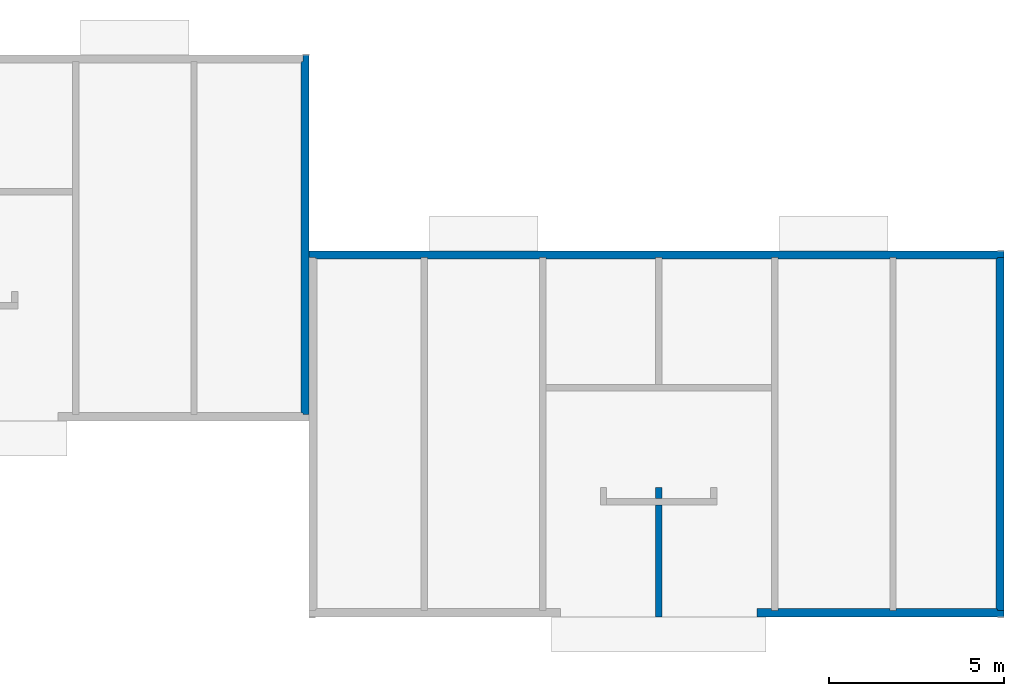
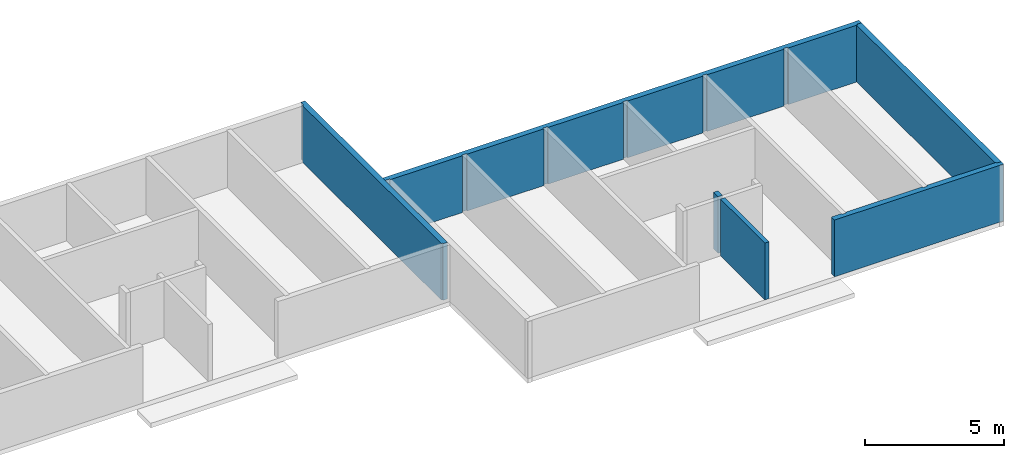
# One storey, part 10 of 10: 6 walls.
"""IFC2X3 building model written with IfcOpenShell, lengths in metres."""

from ifc_helpers import new_model, si_unit, frame, origin, place, context, project, spatial, faceted_brep, element, save


model = new_model("IFC2X3")

# Units and contexts
model_context = context("Model", 3, precision=1e-06, world=origin())
ifc_project = project(units=[si_unit("LENGTHUNIT", "METRE"), si_unit("PLANEANGLEUNIT", "RADIAN")], contexts=[model_context])

# Site, building, storey
site = spatial("IfcSite", under=ifc_project, CompositionType="ELEMENT")
building = spatial("IfcBuilding", under=site, CompositionType="ELEMENT")
storey = spatial("IfcBuildingStorey", under=building, Name="r+1", CompositionType="ELEMENT", Elevation=2.7)

# Walls
placement = place(None, origin())
wall_1_placement = place(placement, frame((59.54999999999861, -5.399837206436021, 2.7), z_axis=(0.0, 0.0, 1.0), x_axis=(0.0, 1.0, 0.0)))
element("IfcWall", 1, at=wall_1_placement, inside=storey, context=model_context, shape_type="Brep", body=[
    faceted_brep([(0.04, 0.18, 2.5), (0.04, 0.22, 2.5), (0.04, 0.22, 0.0), (0.04, 0.18, 0.0), (0.04, 0.22, 2.5), (0.05, 0.22, 2.5), (0.05, 0.22, 0.0), (0.04, 0.22, 0.0), (0.05, 0.22, 2.5), (0.05, 0.23, 2.5), (0.05, 0.23, 0.0), (0.05, 0.22, 0.0), (0.05, 0.23, 2.5), (10.03991497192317, 0.23, 2.5), (10.03991497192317, 0.23, 0.0), (0.05, 0.23, 0.0), (10.03991497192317, 0.23, 2.5), (10.03991497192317, 0.22, 2.5), (10.03991497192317, 0.22, 0.0), (10.03991497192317, 0.23, 0.0), (10.03991497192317, 0.22, 2.5), (10.04991497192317, 0.22, 2.5), (10.04991497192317, 0.22, 0.0), (10.03991497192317, 0.22, 0.0), (10.04991497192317, 0.22, 2.5), (10.04991497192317, 0.18, 2.5), (10.04991497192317, 0.18, 0.0), (10.04991497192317, 0.22, 0.0), (10.04991497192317, 0.18, 2.5), (10.08991497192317, 0.18, 2.5), (10.08991497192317, 0.18, 0.0), (10.04991497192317, 0.18, 0.0), (10.08991497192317, 0.18, 2.5), (10.08991497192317, 0.0, 2.5), (10.08991497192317, 0.0, 0.0), (10.08991497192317, 0.18, 0.0), (10.08991497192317, 0.0, 2.5), (0.0, 0.0, 2.5), (0.0, 0.0, 0.0), (10.08991497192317, 0.0, 0.0), (0.0, 0.0, 2.5), (0.0, 0.18, 2.5), (0.0, 0.18, 0.0), (0.0, 0.0, 0.0), (0.0, 0.18, 2.5), (0.04, 0.18, 2.5), (0.04, 0.18, 0.0), (0.0, 0.18, 0.0), (0.04, 0.18, 2.5), (0.0, 0.18, 2.5), (0.0, 0.0, 2.5), (10.08991497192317, 0.0, 2.5), (10.08991497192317, 0.18, 2.5), (10.04991497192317, 0.18, 2.5), (10.04991497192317, 0.22, 2.5), (10.03991497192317, 0.22, 2.5), (10.03991497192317, 0.23, 2.5), (0.05, 0.23, 2.5), (0.05, 0.22, 2.5), (0.04, 0.22, 2.5), (0.04, 0.18, 0.0), (0.04, 0.22, 0.0), (0.05, 0.22, 0.0), (0.05, 0.23, 0.0), (10.03991497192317, 0.23, 0.0), (10.03991497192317, 0.22, 0.0), (10.04991497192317, 0.22, 0.0), (10.04991497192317, 0.18, 0.0), (10.08991497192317, 0.18, 0.0), (10.08991497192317, 0.0, 0.0), (0.0, 0.0, 0.0), (0.0, 0.18, 0.0)], [[[0, 1, 2, 3]], [[4, 5, 6, 7]], [[8, 9, 10, 11]], [[12, 13, 14, 15]], [[16, 17, 18, 19]], [[20, 21, 22, 23]], [[24, 25, 26, 27]], [[28, 29, 30, 31]], [[32, 33, 34, 35]], [[36, 37, 38, 39]], [[40, 41, 42, 43]], [[44, 45, 46, 47]], [[48, 49, 50, 51, 52, 53, 54, 55, 56, 57, 58, 59]], [[60, 61, 62, 63, 64, 65, 66, 67, 68, 69, 70, 71]]]),
])
wall_2_placement = place(placement, frame((39.69999999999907, 0.200077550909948, 2.7), z_axis=(0.0, 0.0, 1.0), x_axis=(0.0, 1.0, 0.0)))
element("IfcWall", 2, at=wall_2_placement, inside=storey, context=model_context, shape_type="Brep", body=[
    faceted_brep([(0.04, 0.18, 2.5), (0.04, 0.22, 2.5), (0.04, 0.22, 0.0), (0.04, 0.18, 0.0), (0.04, 0.22, 2.5), (0.05, 0.22, 2.5), (0.05, 0.22, 0.0), (0.04, 0.22, 0.0), (0.05, 0.22, 2.5), (0.05, 0.23, 2.5), (0.05, 0.23, 0.0), (0.05, 0.22, 0.0), (0.05, 0.23, 2.5), (10.05000021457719, 0.23, 2.5), (10.05000021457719, 0.23, 0.0), (0.05, 0.23, 0.0), (10.05000021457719, 0.23, 2.5), (10.05000021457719, 0.22, 2.5), (10.05000021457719, 0.22, 0.0), (10.05000021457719, 0.23, 0.0), (10.05000021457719, 0.22, 2.5), (10.090000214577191, 0.22, 2.5), (10.090000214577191, 0.22, 0.0), (10.05000021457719, 0.22, 0.0), (10.090000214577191, 0.22, 2.5), (10.090000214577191, 0.18, 2.5), (10.090000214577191, 0.18, 0.0), (10.090000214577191, 0.22, 0.0), (10.090000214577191, 0.18, 2.5), (10.270000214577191, 0.18, 2.5), (10.270000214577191, 0.18, 0.0), (10.090000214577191, 0.18, 0.0), (10.270000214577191, 0.18, 2.5), (10.270000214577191, 0.0, 2.5), (10.270000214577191, 0.0, 0.0), (10.270000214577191, 0.18, 0.0), (10.270000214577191, 0.0, 2.5), (0.0, 0.0, 2.5), (0.0, 0.0, 0.0), (10.270000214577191, 0.0, 0.0), (0.0, 0.0, 2.5), (0.0, 0.18, 2.5), (0.0, 0.18, 0.0), (0.0, 0.0, 0.0), (0.0, 0.18, 2.5), (0.04, 0.18, 2.5), (0.04, 0.18, 0.0), (0.0, 0.18, 0.0), (0.04, 0.18, 2.5), (0.0, 0.18, 2.5), (0.0, 0.0, 2.5), (10.270000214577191, 0.0, 2.5), (10.270000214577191, 0.18, 2.5), (10.090000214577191, 0.18, 2.5), (10.090000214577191, 0.22, 2.5), (10.05000021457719, 0.22, 2.5), (10.05000021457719, 0.23, 2.5), (0.05, 0.23, 2.5), (0.05, 0.22, 2.5), (0.04, 0.22, 2.5), (0.04, 0.18, 0.0), (0.04, 0.22, 0.0), (0.05, 0.22, 0.0), (0.05, 0.23, 0.0), (10.05000021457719, 0.23, 0.0), (10.05000021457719, 0.22, 0.0), (10.090000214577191, 0.22, 0.0), (10.090000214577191, 0.18, 0.0), (10.270000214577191, 0.18, 0.0), (10.270000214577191, 0.0, 0.0), (0.0, 0.0, 0.0), (0.0, 0.18, 0.0)], [[[0, 1, 2, 3]], [[4, 5, 6, 7]], [[8, 9, 10, 11]], [[12, 13, 14, 15]], [[16, 17, 18, 19]], [[20, 21, 22, 23]], [[24, 25, 26, 27]], [[28, 29, 30, 31]], [[32, 33, 34, 35]], [[36, 37, 38, 39]], [[40, 41, 42, 43]], [[44, 45, 46, 47]], [[48, 49, 50, 51, 52, 53, 54, 55, 56, 57, 58, 59]], [[60, 61, 62, 63, 64, 65, 66, 67, 68, 69, 70, 71]]]),
])
wall_3_placement = place(placement, frame((49.77499999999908, -5.579961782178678, 2.7), z_axis=(0.0, 0.0, 1.0), x_axis=(0.0, 1.0, 0.0)))
element("IfcWall", 3, at=wall_3_placement, inside=storey, context=model_context, shape_type="Brep", body=[
    faceted_brep([(3.200039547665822, 0.18, 2.5), (3.200039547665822, 0.0, 2.5), (3.200039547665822, 0.0, 0.0), (3.200039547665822, 0.18, 0.0), (3.200039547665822, 0.0, 2.5), (0.0, 0.0, 2.5), (0.0, 0.0, 0.0), (3.200039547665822, 0.0, 0.0), (0.0, 0.0, 2.5), (7.16957565e-07, 0.18, 2.5), (7.16957565e-07, 0.18, 0.0), (0.0, 0.0, 0.0), (7.16957565e-07, 0.18, 2.5), (3.200039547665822, 0.18, 2.5), (3.200039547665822, 0.18, 0.0), (7.16957565e-07, 0.18, 0.0), (3.200039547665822, 0.18, 2.5), (7.16957565e-07, 0.18, 2.5), (0.0, 0.0, 2.5), (3.200039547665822, 0.0, 2.5), (3.200039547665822, 0.18, 0.0), (3.200039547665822, 0.0, 0.0), (0.0, 0.0, 0.0), (7.16957565e-07, 0.18, 0.0)], [[[0, 1, 2, 3]], [[4, 5, 6, 7]], [[8, 9, 10, 11]], [[12, 13, 14, 15]], [[16, 17, 18, 19]], [[20, 21, 22, 23]]]),
])
wall_4_placement = place(placement, frame((59.54999999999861, 4.870077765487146, 2.7), z_axis=(0.0, 0.0, 1.0), x_axis=(-1.0, 0.0, 0.0)))
element("IfcWall", 4, at=wall_4_placement, inside=storey, context=model_context, shape_type="Brep", body=[
    faceted_brep([(19.62999999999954, 0.23, 2.500000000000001), (19.62999999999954, 0.22, 2.500000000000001), (19.62999999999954, 0.22, 0.0), (19.62999999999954, 0.23, 0.0), (19.62999999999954, 0.22, 2.500000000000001), (19.669999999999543, 0.22, 2.500000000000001), (19.669999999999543, 0.22, 0.0), (19.62999999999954, 0.22, 0.0), (19.669999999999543, 0.22, 2.500000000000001), (19.669999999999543, 0.18, 2.500000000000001), (19.669999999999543, 0.18, 0.0), (19.669999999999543, 0.22, 0.0), (19.669999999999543, 0.18, 2.500000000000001), (19.849999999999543, 0.18, 2.500000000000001), (19.849999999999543, 0.18, 0.0), (19.669999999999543, 0.18, 0.0), (19.849999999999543, 0.18, 2.500000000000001), (19.849999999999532, 0.0, 2.500000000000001), (19.849999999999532, 0.0, 0.0), (19.849999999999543, 0.18, 0.0), (19.849999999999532, 0.0, 2.500000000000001), (0.0, 0.0, 2.500000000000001), (0.0, 0.0, 0.0), (19.849999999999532, 0.0, 0.0), (0.0, 0.0, 2.500000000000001), (0.0, 0.18, 2.500000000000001), (0.0, 0.18, 0.0), (0.0, 0.0, 0.0), (0.0, 0.18, 2.500000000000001), (0.18, 0.18, 2.500000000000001), (0.18, 0.18, 0.0), (0.0, 0.18, 0.0), (0.18, 0.18, 2.500000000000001), (0.18, 0.22, 2.500000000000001), (0.18, 0.22, 0.0), (0.18, 0.18, 0.0), (0.18, 0.22, 2.500000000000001), (0.22, 0.22, 2.500000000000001), (0.22, 0.22, 0.0), (0.18, 0.22, 0.0), (0.22, 0.22, 2.500000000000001), (0.22, 0.23, 2.500000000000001), (0.22, 0.23, 0.0), (0.22, 0.22, 0.0), (0.22, 0.23, 2.500000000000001), (3.079999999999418, 0.23, 2.500000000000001), (3.079999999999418, 0.23, 0.0), (0.22, 0.23, 0.0), (3.079999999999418, 0.23, 2.500000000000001), (3.079999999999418, 0.18, 2.500000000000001), (3.079999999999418, 0.18, 0.0), (3.079999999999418, 0.23, 0.0), (3.079999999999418, 0.18, 2.500000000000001), (3.259999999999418, 0.18, 2.500000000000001), (3.259999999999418, 0.18, 0.0), (3.079999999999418, 0.18, 0.0), (3.259999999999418, 0.18, 2.500000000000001), (3.259999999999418, 0.23, 2.500000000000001), (3.259999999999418, 0.23, 0.0), (3.259999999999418, 0.18, 0.0), (3.259999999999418, 0.23, 2.500000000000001), (6.460000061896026, 0.230000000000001, 2.500000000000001), (6.460000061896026, 0.230000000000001, 0.0), (3.259999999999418, 0.23, 0.0), (6.460000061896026, 0.230000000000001, 2.500000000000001), (6.460000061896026, 0.180000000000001, 2.500000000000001), (6.460000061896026, 0.180000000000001, 0.0), (6.460000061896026, 0.230000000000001, 0.0), (6.460000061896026, 0.180000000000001, 2.500000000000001), (6.640000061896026, 0.18, 2.500000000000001), (6.640000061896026, 0.18, 0.0), (6.460000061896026, 0.180000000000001, 0.0), (6.640000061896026, 0.18, 2.500000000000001), (6.640000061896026, 0.230000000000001, 2.500000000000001), (6.640000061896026, 0.230000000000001, 0.0), (6.640000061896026, 0.18, 0.0), (6.640000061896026, 0.230000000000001, 2.500000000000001), (9.774999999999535, 0.230000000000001, 2.500000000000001), (9.774999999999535, 0.230000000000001, 0.0), (6.640000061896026, 0.230000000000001, 0.0), (9.774999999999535, 0.230000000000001, 2.500000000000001), (9.774999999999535, 0.180000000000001, 2.500000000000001), (9.774999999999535, 0.180000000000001, 0.0), (9.774999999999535, 0.230000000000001, 0.0), (9.774999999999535, 0.180000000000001, 2.500000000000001), (9.954999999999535, 0.18, 2.500000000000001), (9.954999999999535, 0.18, 0.0), (9.774999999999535, 0.180000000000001, 0.0), (9.954999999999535, 0.18, 2.500000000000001), (9.954999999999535, 0.230000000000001, 2.500000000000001), (9.954999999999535, 0.230000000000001, 0.0), (9.954999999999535, 0.18, 0.0), (9.954999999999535, 0.230000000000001, 2.500000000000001), (13.089999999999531, 0.23, 2.500000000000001), (13.089999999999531, 0.23, 0.0), (9.954999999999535, 0.230000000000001, 0.0), (13.089999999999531, 0.23, 2.500000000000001), (13.089999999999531, 0.18, 2.500000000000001), (13.089999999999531, 0.18, 0.0), (13.089999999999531, 0.23, 0.0), (13.089999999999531, 0.18, 2.500000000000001), (13.26999999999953, 0.179999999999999, 2.500000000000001), (13.26999999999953, 0.179999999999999, 0.0), (13.089999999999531, 0.18, 0.0), (13.26999999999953, 0.179999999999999, 2.500000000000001), (13.26999999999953, 0.23, 2.500000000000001), (13.26999999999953, 0.23, 0.0), (13.26999999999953, 0.179999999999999, 0.0), (13.26999999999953, 0.23, 2.500000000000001), (16.46999999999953, 0.23, 2.500000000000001), (16.46999999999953, 0.23, 0.0), (13.26999999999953, 0.23, 0.0), (16.46999999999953, 0.23, 2.500000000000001), (16.46999999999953, 0.18, 2.500000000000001), (16.46999999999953, 0.18, 0.0), (16.46999999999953, 0.23, 0.0), (16.46999999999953, 0.18, 2.500000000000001), (16.64999999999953, 0.18, 2.500000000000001), (16.64999999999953, 0.18, 0.0), (16.46999999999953, 0.18, 0.0), (16.64999999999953, 0.18, 2.500000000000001), (16.64999999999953, 0.23, 2.500000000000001), (16.64999999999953, 0.23, 0.0), (16.64999999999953, 0.18, 0.0), (16.64999999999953, 0.23, 2.500000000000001), (19.62999999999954, 0.23, 2.500000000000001), (19.62999999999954, 0.23, 0.0), (16.64999999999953, 0.23, 0.0), (19.62999999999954, 0.23, 2.500000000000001), (16.64999999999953, 0.23, 2.500000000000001), (16.64999999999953, 0.18, 2.500000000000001), (16.46999999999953, 0.18, 2.500000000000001), (16.46999999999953, 0.23, 2.500000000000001), (13.26999999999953, 0.23, 2.500000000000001), (13.26999999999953, 0.179999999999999, 2.500000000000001), (13.089999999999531, 0.18, 2.500000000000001), (13.089999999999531, 0.23, 2.500000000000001), (9.954999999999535, 0.230000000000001, 2.500000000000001), (9.954999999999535, 0.18, 2.500000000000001), (9.774999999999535, 0.180000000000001, 2.500000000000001), (9.774999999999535, 0.230000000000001, 2.500000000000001), (6.640000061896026, 0.230000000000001, 2.500000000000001), (6.640000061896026, 0.18, 2.500000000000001), (6.460000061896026, 0.180000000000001, 2.500000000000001), (6.460000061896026, 0.230000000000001, 2.500000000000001), (3.259999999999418, 0.23, 2.500000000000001), (3.259999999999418, 0.18, 2.500000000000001), (3.079999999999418, 0.18, 2.500000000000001), (3.079999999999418, 0.23, 2.500000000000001), (0.22, 0.23, 2.500000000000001), (0.22, 0.22, 2.500000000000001), (0.18, 0.22, 2.500000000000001), (0.18, 0.18, 2.500000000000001), (0.0, 0.18, 2.500000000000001), (0.0, 0.0, 2.500000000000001), (19.849999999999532, 0.0, 2.500000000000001), (19.849999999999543, 0.18, 2.500000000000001), (19.669999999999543, 0.18, 2.500000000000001), (19.669999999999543, 0.22, 2.500000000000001), (19.62999999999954, 0.22, 2.500000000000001), (19.62999999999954, 0.23, 0.0), (19.62999999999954, 0.22, 0.0), (19.669999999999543, 0.22, 0.0), (19.669999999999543, 0.18, 0.0), (19.849999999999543, 0.18, 0.0), (19.849999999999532, 0.0, 0.0), (0.0, 0.0, 0.0), (0.0, 0.18, 0.0), (0.18, 0.18, 0.0), (0.18, 0.22, 0.0), (0.22, 0.22, 0.0), (0.22, 0.23, 0.0), (3.079999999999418, 0.23, 0.0), (3.079999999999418, 0.18, 0.0), (3.259999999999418, 0.18, 0.0), (3.259999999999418, 0.23, 0.0), (6.460000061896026, 0.230000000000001, 0.0), (6.460000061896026, 0.180000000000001, 0.0), (6.640000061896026, 0.18, 0.0), (6.640000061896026, 0.230000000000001, 0.0), (9.774999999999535, 0.230000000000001, 0.0), (9.774999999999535, 0.180000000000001, 0.0), (9.954999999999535, 0.18, 0.0), (9.954999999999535, 0.230000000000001, 0.0), (13.089999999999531, 0.23, 0.0), (13.089999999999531, 0.18, 0.0), (13.26999999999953, 0.179999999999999, 0.0), (13.26999999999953, 0.23, 0.0), (16.46999999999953, 0.23, 0.0), (16.46999999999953, 0.18, 0.0), (16.64999999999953, 0.18, 0.0), (16.64999999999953, 0.23, 0.0)], [[[0, 1, 2, 3]], [[4, 5, 6, 7]], [[8, 9, 10, 11]], [[12, 13, 14, 15]], [[16, 17, 18, 19]], [[20, 21, 22, 23]], [[24, 25, 26, 27]], [[28, 29, 30, 31]], [[32, 33, 34, 35]], [[36, 37, 38, 39]], [[40, 41, 42, 43]], [[44, 45, 46, 47]], [[48, 49, 50, 51]], [[52, 53, 54, 55]], [[56, 57, 58, 59]], [[60, 61, 62, 63]], [[64, 65, 66, 67]], [[68, 69, 70, 71]], [[72, 73, 74, 75]], [[76, 77, 78, 79]], [[80, 81, 82, 83]], [[84, 85, 86, 87]], [[88, 89, 90, 91]], [[92, 93, 94, 95]], [[96, 97, 98, 99]], [[100, 101, 102, 103]], [[104, 105, 106, 107]], [[108, 109, 110, 111]], [[112, 113, 114, 115]], [[116, 117, 118, 119]], [[120, 121, 122, 123]], [[124, 125, 126, 127]], [[128, 129, 130, 131, 132, 133, 134, 135, 136, 137, 138, 139, 140, 141, 142, 143, 144, 145, 146, 147, 148, 149, 150, 151, 152, 153, 154, 155, 156, 157, 158, 159]], [[160, 161, 162, 163, 164, 165, 166, 167, 168, 169, 170, 171, 172, 173, 174, 175, 176, 177, 178, 179, 180, 181, 182, 183, 184, 185, 186, 187, 188, 189, 190, 191]]]),
])
wall_5_placement = place(placement, frame((49.77499999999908, -5.579961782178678, 2.7), z_axis=(0.0, 0.0, 1.0), x_axis=(0.0, 1.0, 0.0)))
element("IfcWall", 5, at=wall_5_placement, inside=storey, context=model_context, shape_type="Brep", body=[
    faceted_brep([(3.700039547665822, 0.18, 2.5), (3.700039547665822, 0.0, 2.5), (3.700039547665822, 0.0, 0.0), (3.700039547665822, 0.18, 0.0), (3.700039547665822, 0.0, 2.5), (3.380039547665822, 0.0, 2.5), (3.380039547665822, 0.0, 0.0), (3.700039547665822, 0.0, 0.0), (3.380039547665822, 0.0, 2.5), (3.380039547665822, 0.18, 2.5), (3.380039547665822, 0.18, 0.0), (3.380039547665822, 0.0, 0.0), (3.380039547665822, 0.18, 2.5), (3.700039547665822, 0.18, 2.5), (3.700039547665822, 0.18, 0.0), (3.380039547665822, 0.18, 0.0), (3.700039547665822, 0.18, 2.5), (3.380039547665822, 0.18, 2.5), (3.380039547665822, 0.0, 2.5), (3.700039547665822, 0.0, 2.5), (3.700039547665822, 0.18, 0.0), (3.700039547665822, 0.0, 0.0), (3.380039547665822, 0.0, 0.0), (3.380039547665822, 0.18, 0.0)], [[[0, 1, 2, 3]], [[4, 5, 6, 7]], [[8, 9, 10, 11]], [[12, 13, 14, 15]], [[16, 17, 18, 19]], [[20, 21, 22, 23]]]),
])
wall_6_placement = place(placement, frame((52.49499999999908, -5.579837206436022, 2.7), z_axis=(0.0, 0.0, 1.0), x_axis=(1.0, 0.0, 0.0)))
element("IfcWall", 6, at=wall_6_placement, inside=storey, context=model_context, shape_type="Brep", body=[
    faceted_brep([(0.414999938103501, 0.23, 2.5), (0.414999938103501, 0.18, 2.5), (0.414999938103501, 0.18, 0.0), (0.414999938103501, 0.23, 0.0), (0.414999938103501, 0.18, 2.5), (0.594999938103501, 0.18, 2.5), (0.594999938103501, 0.18, 0.0), (0.414999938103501, 0.18, 0.0), (0.594999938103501, 0.18, 2.5), (0.594999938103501, 0.23, 2.5), (0.594999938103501, 0.23, 0.0), (0.594999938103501, 0.18, 0.0), (0.594999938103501, 0.23, 2.5), (3.795000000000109, 0.23, 2.5), (3.795000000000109, 0.23, 0.0), (0.594999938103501, 0.23, 0.0), (3.795000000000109, 0.23, 2.5), (3.795000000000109, 0.18, 2.5), (3.795000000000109, 0.18, 0.0), (3.795000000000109, 0.23, 0.0), (3.795000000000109, 0.18, 2.5), (3.975000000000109, 0.18, 2.5), (3.975000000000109, 0.18, 0.0), (3.795000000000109, 0.18, 0.0), (3.975000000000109, 0.18, 2.5), (3.975000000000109, 0.23, 2.5), (3.975000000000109, 0.23, 0.0), (3.975000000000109, 0.18, 0.0), (3.975000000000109, 0.23, 2.5), (6.834999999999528, 0.23, 2.5), (6.834999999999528, 0.23, 0.0), (3.975000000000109, 0.23, 0.0), (6.834999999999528, 0.23, 2.5), (6.834999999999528, 0.22, 2.5), (6.834999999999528, 0.22, 0.0), (6.834999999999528, 0.23, 0.0), (6.834999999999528, 0.22, 2.5), (6.874999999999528, 0.22, 2.5), (6.874999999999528, 0.22, 0.0), (6.834999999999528, 0.22, 0.0), (6.874999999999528, 0.22, 2.5), (6.874999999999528, 0.18, 2.5), (6.874999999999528, 0.18, 0.0), (6.874999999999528, 0.22, 0.0), (6.874999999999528, 0.18, 2.5), (7.054999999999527, 0.18, 2.5), (7.054999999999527, 0.18, 0.0), (6.874999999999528, 0.18, 0.0), (7.054999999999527, 0.18, 2.5), (7.054999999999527, 0.0, 2.5), (7.054999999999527, 0.0, 0.0), (7.054999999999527, 0.18, 0.0), (7.054999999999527, 0.0, 2.5), (0.0, 0.0, 2.5), (0.0, 0.0, 0.0), (7.054999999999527, 0.0, 0.0), (0.0, 0.0, 2.5), (0.0, 0.23, 2.5), (0.0, 0.23, 0.0), (0.0, 0.0, 0.0), (0.0, 0.23, 2.5), (0.414999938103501, 0.23, 2.5), (0.414999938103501, 0.23, 0.0), (0.0, 0.23, 0.0), (0.414999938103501, 0.23, 2.5), (0.0, 0.23, 2.5), (0.0, 0.0, 2.5), (7.054999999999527, 0.0, 2.5), (7.054999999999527, 0.18, 2.5), (6.874999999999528, 0.18, 2.5), (6.874999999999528, 0.22, 2.5), (6.834999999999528, 0.22, 2.5), (6.834999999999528, 0.23, 2.5), (3.975000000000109, 0.23, 2.5), (3.975000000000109, 0.18, 2.5), (3.795000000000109, 0.18, 2.5), (3.795000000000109, 0.23, 2.5), (0.594999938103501, 0.23, 2.5), (0.594999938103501, 0.18, 2.5), (0.414999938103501, 0.18, 2.5), (0.414999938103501, 0.23, 0.0), (0.414999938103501, 0.18, 0.0), (0.594999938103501, 0.18, 0.0), (0.594999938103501, 0.23, 0.0), (3.795000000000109, 0.23, 0.0), (3.795000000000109, 0.18, 0.0), (3.975000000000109, 0.18, 0.0), (3.975000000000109, 0.23, 0.0), (6.834999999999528, 0.23, 0.0), (6.834999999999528, 0.22, 0.0), (6.874999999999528, 0.22, 0.0), (6.874999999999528, 0.18, 0.0), (7.054999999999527, 0.18, 0.0), (7.054999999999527, 0.0, 0.0), (0.0, 0.0, 0.0), (0.0, 0.23, 0.0)], [[[0, 1, 2, 3]], [[4, 5, 6, 7]], [[8, 9, 10, 11]], [[12, 13, 14, 15]], [[16, 17, 18, 19]], [[20, 21, 22, 23]], [[24, 25, 26, 27]], [[28, 29, 30, 31]], [[32, 33, 34, 35]], [[36, 37, 38, 39]], [[40, 41, 42, 43]], [[44, 45, 46, 47]], [[48, 49, 50, 51]], [[52, 53, 54, 55]], [[56, 57, 58, 59]], [[60, 61, 62, 63]], [[64, 65, 66, 67, 68, 69, 70, 71, 72, 73, 74, 75, 76, 77, 78, 79]], [[80, 81, 82, 83, 84, 85, 86, 87, 88, 89, 90, 91, 92, 93, 94, 95]]]),
])

save(model, "model.ifc")
